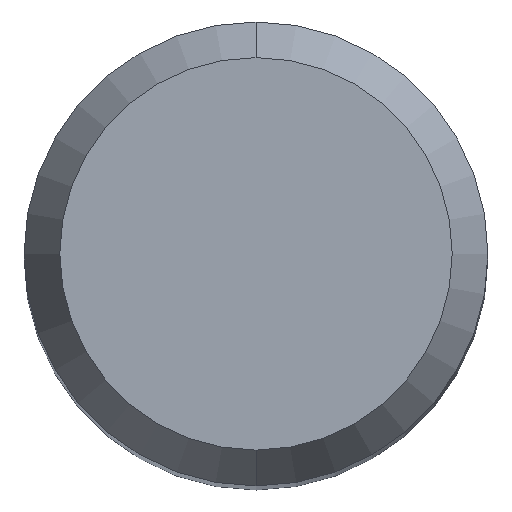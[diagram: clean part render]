
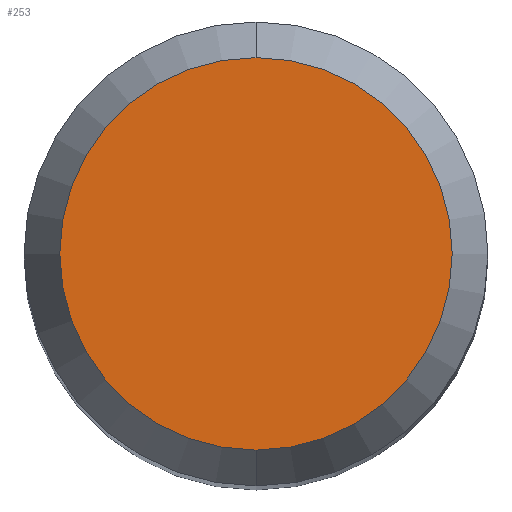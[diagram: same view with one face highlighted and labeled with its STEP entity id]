
A CAD part, top view. The second image highlights one B-rep face of the part: STEP entity #253.
In plain terms, the highlighted planar face has unit normal (0, 0, 1).
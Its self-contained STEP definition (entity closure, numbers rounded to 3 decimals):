
#211=EDGE_CURVE('',#251,#297,#469,.T.);
#233=EDGE_CURVE('',#297,#251,#492,.T.);
#251=VERTEX_POINT('',#511);
#253=ADVANCED_FACE('',(#513),#514,.T.);
#297=VERTEX_POINT('',#562);
#469=CIRCLE('',#775,2.538);
#492=CIRCLE('',#807,2.538);
#511=CARTESIAN_POINT('',(0.0,2.538,0.0));
#513=FACE_OUTER_BOUND('',#872,.T.);
#514=PLANE('',#873);
#562=CARTESIAN_POINT('',(0.,-2.538,0.0));
#775=AXIS2_PLACEMENT_3D('',#1294,#1295,#1296);
#807=AXIS2_PLACEMENT_3D('',#1306,#1307,#1308);
#872=EDGE_LOOP('',(#1321,#1322));
#873=AXIS2_PLACEMENT_3D('',#1323,#1324,#1325);
#1294=CARTESIAN_POINT('',(0.0,0.0,0.0));
#1295=DIRECTION('',(0.0,0.0,-1.0));
#1296=DIRECTION('',(0.0,1.0,0.0));
#1306=CARTESIAN_POINT('',(0.0,0.0,0.0));
#1307=DIRECTION('',(0.0,0.0,-1.0));
#1308=DIRECTION('',(0.0,1.0,0.0));
#1321=ORIENTED_EDGE('',*,*,#211,.F.);
#1322=ORIENTED_EDGE('',*,*,#233,.F.);
#1323=CARTESIAN_POINT('',(0.0,1.269,0.0));
#1324=DIRECTION('',(-0.0,0.0,1.0));
#1325=DIRECTION('',(0.0,-1.0,0.0));
